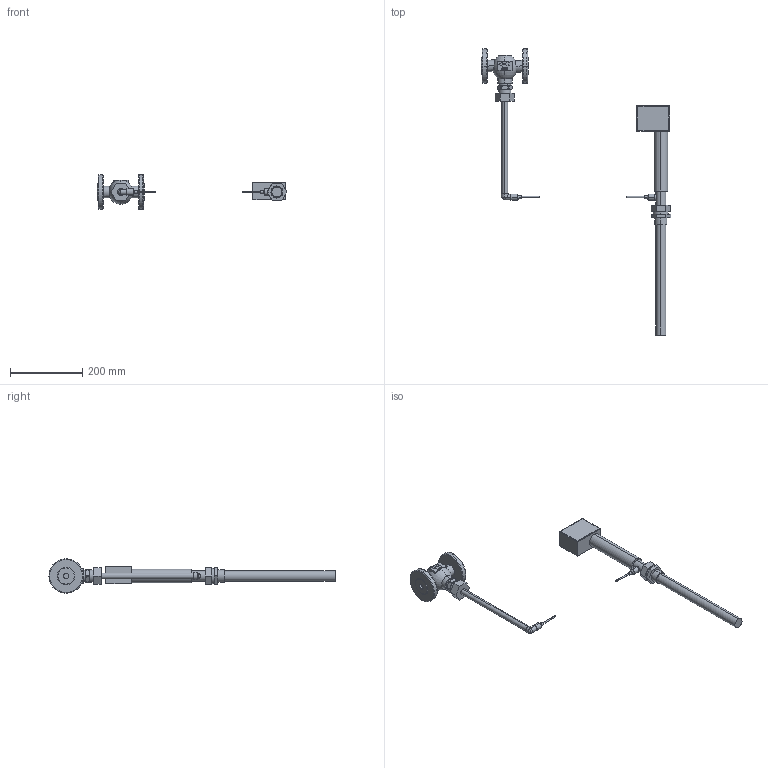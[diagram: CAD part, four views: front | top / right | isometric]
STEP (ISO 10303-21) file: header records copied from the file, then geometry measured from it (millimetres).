
FILE_DESCRIPTION (( 'STEP AP203' ), '1' );
FILE_NAME ('2111(2710)_SS_DIN_015_025_EN-JS1049_B1_std_2231_150_TL325.STEP', '2009-04-24T09:15:30', ( 'SAMSON' ), ( 'SAMSON' ), 'SwSTEP 2.0', 'SolidWorks 2006303', '' );
FILE_SCHEMA (( 'CONFIG_CONTROL_DESIGN' ));
Length unit declared in the file: millimetre
Products named in the file (1): 2111(2710)_SS_DIN_015_025_EN-JS1049_B1_std_2231_150_TL325
Bounding box: 524.18 x 792.6 x 95 mm (x, y, z)
Volume: 1353368.1 mm3; surface area: 180178.4 mm2
Topology: 6 solids, 6 shells, 370 faces, 918 edges, 602 vertices
Faces by surface type: plane 173, bspline 116, cylinder 50, torus 17, cone 13, sphere 1
Entity records: 16603 total; most frequent: CARTESIAN_POINT 8426, ORIENTED_EDGE 1836, DIRECTION 1330, EDGE_CURVE 918, VERTEX_POINT 602, VECTOR 514, LINE 514, EDGE_LOOP 412
